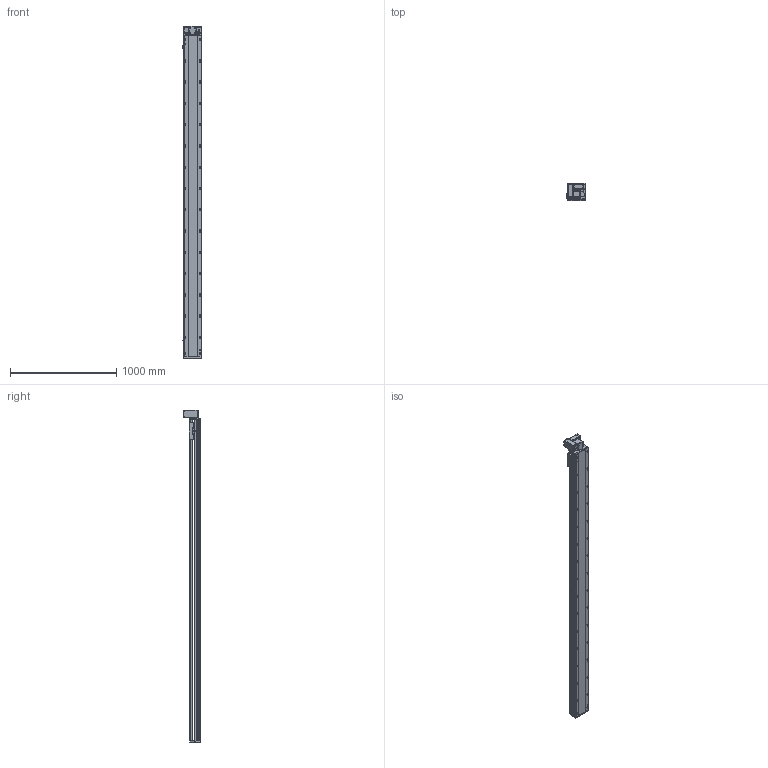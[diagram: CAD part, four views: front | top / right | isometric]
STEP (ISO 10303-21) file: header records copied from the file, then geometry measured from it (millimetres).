
FILE_DESCRIPTION (( 'STEP AP214' ), '1' );
FILE_NAME ('RTB17S-XX-2750-LW-M40-C4.STEP', '2025-12-11T07:19:04', ( '' ), ( '' ), 'SwSTEP 2.0', 'SolidWorks 2018', '' );
FILE_SCHEMA (( 'AUTOMOTIVE_DESIGN' ));
Length unit declared in the file: millimetre
Products named in the file (14): RTB14-L-018P^RTB17S-LW-々湍釱蚾饜-400W_RTB17S-XX-XX-LW-M40-C4; RTB14-L-005P--轴承塑胶压盖^RTB17S-LW-皮带座装配-400W_RTB17S-XX-XX-LW-M40-C4; RTB17S-XX-2750-LW-M40-C4; 400W侜督萇儂^RTB17S-XX-XX-LW-M40-C4; RTB14-L-017P^RTB17S-LW-々湍釱蚾饜-400W_RTB17S-XX-XX-LW-M40-C4; RTB17S-L-014-T20--々湍釱^RTB17S-LW-々湍釱蚾饜-400W_RTB17S-XX-XX-LW-M40-C4; OMRON EE-SX672 传感器^RTB17S-XX-XX-LW-M40-C4; RTB14-L-008-M20--萇儂啣^RTB17S-LW-々湍釱蚾饜-400W_RTB17S-XX-XX-LW-M40-C4; RTH13-BL-012覜茼え俋离^RTB17S-XX-XX-LW-M40-C4; RTB17S-L-004佪裝蹟譫蟀諉釱^RTB17S-XX-XX-LW-M40-C4; RTB17-R-011菁釱^RTB17S-XX-XX-LW-M40-C4; RTB17S-L-007奻裔^RTB17S-XX-XX-LW-M40-C4; RTB17S-LW-々湍釱蚾饜-400W^RTB17S-XX-XX-LW-M40-C4; RTB17S-L-001耜醱啣^RTB17S-XX-XX-LW-M40-C4
Assembly tree (16 placements, depth 3):
  RTB17S-XX-2750-LW-M40-C4
    RTB17-R-011菁釱^RTB17S-XX-XX-LW-M40-C4
    RTB17S-L-007奻裔^RTB17S-XX-XX-LW-M40-C4
    OMRON EE-SX672 传感器^RTB17S-XX-XX-LW-M40-C4  x3
    RTB17S-L-001耜醱啣^RTB17S-XX-XX-LW-M40-C4
    400W侜督萇儂^RTB17S-XX-XX-LW-M40-C4
    RTB17S-L-004佪裝蹟譫蟀諉釱^RTB17S-XX-XX-LW-M40-C4
    RTH13-BL-012覜茼え俋离^RTB17S-XX-XX-LW-M40-C4
    RTB17S-LW-々湍釱蚾饜-400W^RTB17S-XX-XX-LW-M40-C4
      RTB17S-L-014-T20--々湍釱^RTB17S-LW-々湍釱蚾饜-400W_RTB17S-XX-XX-LW-M40-C4
      RTB14-L-005P--轴承塑胶压盖^RTB17S-LW-皮带座装配-400W_RTB17S-XX-XX-LW-M40-C4
      RTB14-L-008-M20--萇儂啣^RTB17S-LW-々湍釱蚾饜-400W_RTB17S-XX-XX-LW-M40-C4
      RTB14-L-017P^RTB17S-LW-々湍釱蚾饜-400W_RTB17S-XX-XX-LW-M40-C4  x2
      RTB14-L-018P^RTB17S-LW-々湍釱蚾饜-400W_RTB17S-XX-XX-LW-M40-C4
Bounding box: 186 x 160.5 x 3122.5 mm (x, y, z)
Volume: 26645448.9 mm3; surface area: 3054324.8 mm2
Topology: 15 solids, 15 shells, 2349 faces, 6573 edges, 4293 vertices
Faces by surface type: plane 1086, cylinder 815, bspline 301, cone 139, torus 8
Entity records: 69545 total; most frequent: CARTESIAN_POINT 19778, ORIENTED_EDGE 9990, DIRECTION 9206, EDGE_CURVE 4995, VERTEX_POINT 3281, AXIS2_PLACEMENT_3D 3211, VECTOR 2784, LINE 2784
